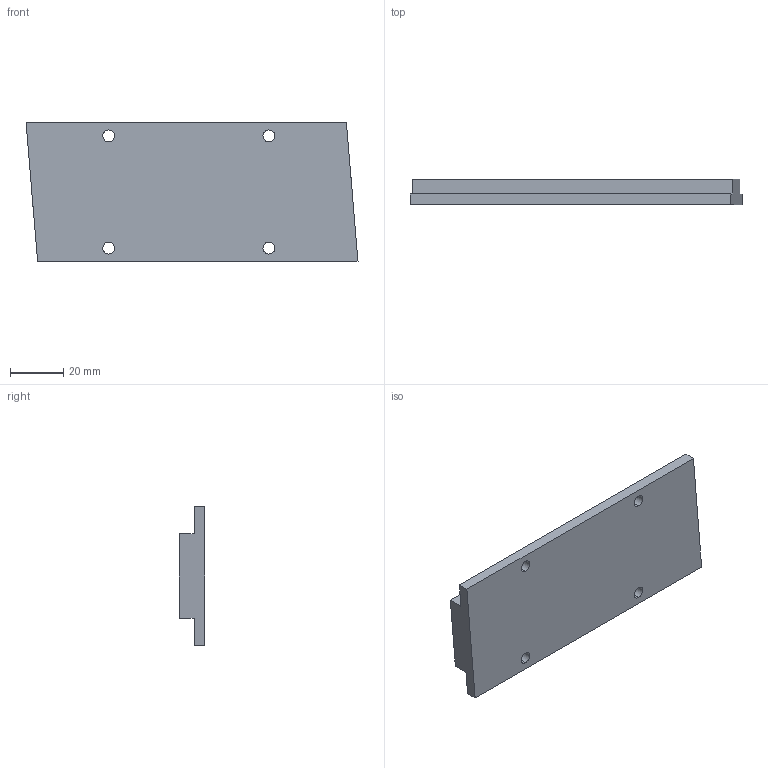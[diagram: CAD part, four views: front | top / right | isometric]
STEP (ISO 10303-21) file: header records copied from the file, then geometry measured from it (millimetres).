
FILE_DESCRIPTION (( 'STEP AP214' ), '1' );
FILE_NAME ('MK1-120隅赽.STEP', '2025-09-05T08:53:33', ( '' ), ( '' ), 'SwSTEP 2.0', 'SolidWorks 2016', '' );
FILE_SCHEMA (( 'AUTOMOTIVE_DESIGN' ));
Length unit declared in the file: millimetre
Products named in the file (1): MK1-120隅赽
Bounding box: 124.36 x 9.6 x 52 mm (x, y, z)
Volume: 45934.4 mm3; surface area: 15670 mm2
Topology: 1 solids, 1 shells, 48 faces, 132 edges, 88 vertices
Faces by surface type: plane 28, bspline 12, cylinder 8
Entity records: 2242 total; most frequent: CARTESIAN_POINT 1033, ORIENTED_EDGE 264, DIRECTION 198, EDGE_CURVE 132, VECTOR 92, LINE 92, VERTEX_POINT 88, EDGE_LOOP 58
